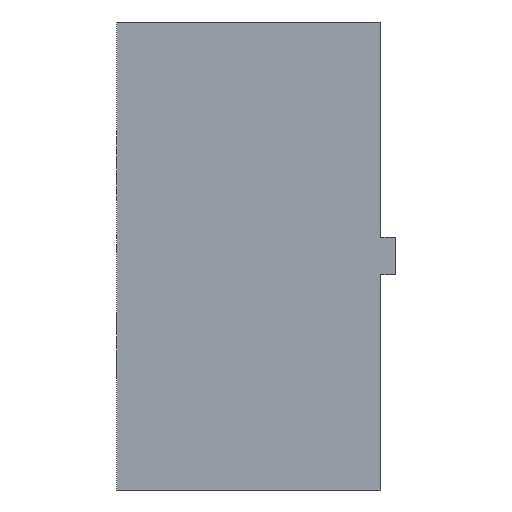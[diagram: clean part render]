
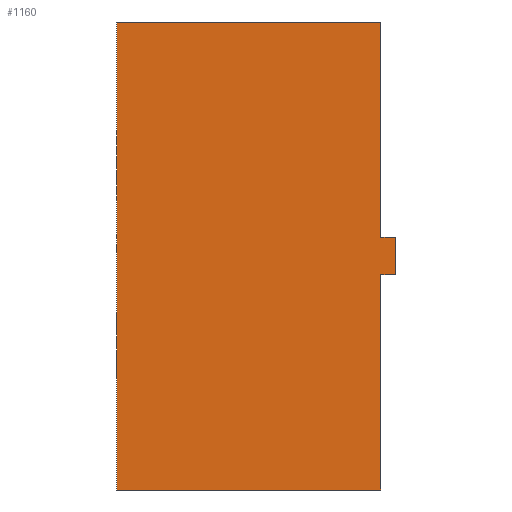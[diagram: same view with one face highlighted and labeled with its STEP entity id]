
A CAD part, left-side view. The second image highlights one B-rep face of the part: STEP entity #1160.
In plain terms, the highlighted planar face has unit normal (-1, 0, 0).
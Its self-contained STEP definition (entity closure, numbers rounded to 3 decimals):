
#13 = DIRECTION ( 'NONE',  ( 0., 0., -1. ) ) ;
#85 = DIRECTION ( 'NONE',  ( -1., 0., 0. ) ) ;
#129 = CARTESIAN_POINT ( 'NONE',  ( -75., 3.8, -4.937 ) ) ;
#133 = CARTESIAN_POINT ( 'NONE',  ( -75., 3.8, 62. ) ) ;
#135 = EDGE_CURVE ( 'NONE', #658, #1211, #680, .T. ) ;
#214 = DIRECTION ( 'NONE',  ( 0., 0., 1. ) ) ;
#249 = EDGE_CURVE ( 'NONE', #348, #1239, #1183, .T. ) ;
#259 = CARTESIAN_POINT ( 'NONE',  ( -75., 0., -4.937 ) ) ;
#264 = VECTOR ( 'NONE', #967, 1000. ) ;
#294 = DIRECTION ( 'NONE',  ( 0., -1., 0. ) ) ;
#298 = CARTESIAN_POINT ( 'NONE',  ( -75., 73.8, 62. ) ) ;
#299 = PLANE ( 'NONE',  #595 ) ;
#318 = LINE ( 'NONE', #298, #655 ) ;
#321 = VECTOR ( 'NONE', #631, 1000. ) ;
#330 = ORIENTED_EDGE ( 'NONE', *, *, #1141, .F. ) ;
#333 = DIRECTION ( 'NONE',  ( 0., 0., -1. ) ) ;
#343 = ORIENTED_EDGE ( 'NONE', *, *, #788, .F. ) ;
#348 = VERTEX_POINT ( 'NONE', #259 ) ;
#371 = CARTESIAN_POINT ( 'NONE',  ( -75., 3.8, -4.937 ) ) ;
#410 = CARTESIAN_POINT ( 'NONE',  ( -75., 73.8, 62. ) ) ;
#484 = DIRECTION ( 'NONE',  ( 0., 0., 1. ) ) ;
#501 = LINE ( 'NONE', #1220, #264 ) ;
#552 = LINE ( 'NONE', #563, #1246 ) ;
#562 = VECTOR ( 'NONE', #333, 1000. ) ;
#563 = CARTESIAN_POINT ( 'NONE',  ( -75., 0., 4.938 ) ) ;
#575 = CARTESIAN_POINT ( 'NONE',  ( -75., 3.8, 4.938 ) ) ;
#579 = CARTESIAN_POINT ( 'NONE',  ( -75., 3.8, 62. ) ) ;
#595 = AXIS2_PLACEMENT_3D ( 'NONE', #653, #85, #484 ) ;
#622 = LINE ( 'NONE', #1016, #562 ) ;
#631 = DIRECTION ( 'NONE',  ( 0., 1., 0. ) ) ;
#637 = EDGE_CURVE ( 'NONE', #1211, #1019, #552, .T. ) ;
#653 = CARTESIAN_POINT ( 'NONE',  ( -75., 0., 0. ) ) ;
#655 = VECTOR ( 'NONE', #214, 1000. ) ;
#658 = VERTEX_POINT ( 'NONE', #579 ) ;
#680 = LINE ( 'NONE', #575, #727 ) ;
#716 = ORIENTED_EDGE ( 'NONE', *, *, #1132, .F. ) ;
#727 = VECTOR ( 'NONE', #13, 1000. ) ;
#734 = LINE ( 'NONE', #133, #1031 ) ;
#750 = ORIENTED_EDGE ( 'NONE', *, *, #637, .F. ) ;
#788 = EDGE_CURVE ( 'NONE', #1193, #794, #318, .T. ) ;
#794 = VERTEX_POINT ( 'NONE', #410 ) ;
#853 = ORIENTED_EDGE ( 'NONE', *, *, #249, .F. ) ;
#860 = ORIENTED_EDGE ( 'NONE', *, *, #1052, .F. ) ;
#897 = EDGE_LOOP ( 'NONE', ( #853, #716, #750, #948, #860, #343, #330, #943 ) ) ;
#917 = VERTEX_POINT ( 'NONE', #1168 ) ;
#930 = FACE_OUTER_BOUND ( 'NONE', #897, .T. ) ;
#943 = ORIENTED_EDGE ( 'NONE', *, *, #1038, .F. ) ;
#948 = ORIENTED_EDGE ( 'NONE', *, *, #135, .F. ) ;
#949 = DIRECTION ( 'NONE',  ( 0., 1., 0. ) ) ;
#967 = DIRECTION ( 'NONE',  ( 0., 0., -1. ) ) ;
#1016 = CARTESIAN_POINT ( 'NONE',  ( -75., 3.8, -62. ) ) ;
#1019 = VERTEX_POINT ( 'NONE', #1106 ) ;
#1027 = CARTESIAN_POINT ( 'NONE',  ( -75., 3.8, 4.938 ) ) ;
#1031 = VECTOR ( 'NONE', #1111, 1000. ) ;
#1038 = EDGE_CURVE ( 'NONE', #1239, #917, #622, .T. ) ;
#1043 = CARTESIAN_POINT ( 'NONE',  ( -75., 73.8, -62. ) ) ;
#1052 = EDGE_CURVE ( 'NONE', #794, #658, #734, .T. ) ;
#1060 = LINE ( 'NONE', #1043, #1125 ) ;
#1106 = CARTESIAN_POINT ( 'NONE',  ( -75., 0., 4.938 ) ) ;
#1111 = DIRECTION ( 'NONE',  ( 0., -1., 0. ) ) ;
#1122 = CARTESIAN_POINT ( 'NONE',  ( -75., 73.8, -62. ) ) ;
#1125 = VECTOR ( 'NONE', #949, 1000. ) ;
#1132 = EDGE_CURVE ( 'NONE', #1019, #348, #501, .T. ) ;
#1141 = EDGE_CURVE ( 'NONE', #917, #1193, #1060, .T. ) ;
#1160 = ADVANCED_FACE ( 'NONE', ( #930 ), #299, .T. ) ;
#1168 = CARTESIAN_POINT ( 'NONE',  ( -75., 3.8, -62. ) ) ;
#1183 = LINE ( 'NONE', #129, #321 ) ;
#1193 = VERTEX_POINT ( 'NONE', #1122 ) ;
#1211 = VERTEX_POINT ( 'NONE', #1027 ) ;
#1220 = CARTESIAN_POINT ( 'NONE',  ( -75., 0., -4.937 ) ) ;
#1239 = VERTEX_POINT ( 'NONE', #371 ) ;
#1246 = VECTOR ( 'NONE', #294, 1000. ) ;
